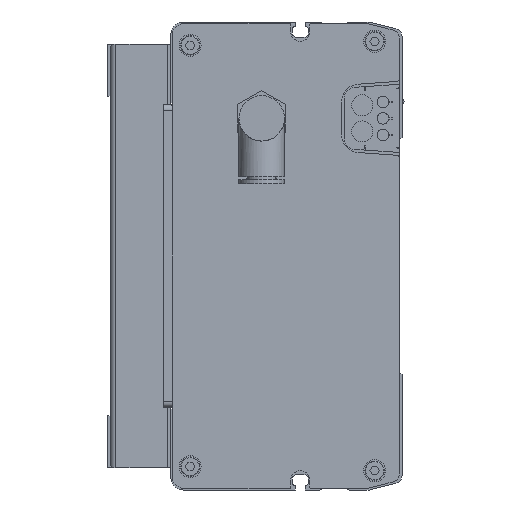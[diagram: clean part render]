
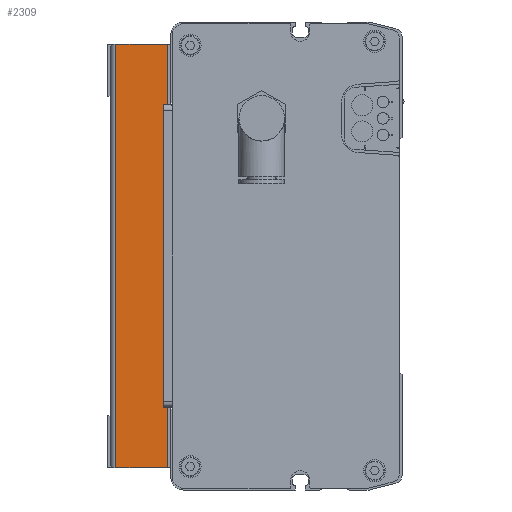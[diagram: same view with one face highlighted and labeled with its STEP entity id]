
A CAD part, left-side view. The second image highlights one B-rep face of the part: STEP entity #2309.
In plain terms, the highlighted planar face has unit normal (-1, 0, 0) as drawn and (1, 0, 0) by its records, which use the part's own axes.
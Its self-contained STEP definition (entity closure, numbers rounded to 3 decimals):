
#252 = CYLINDRICAL_SURFACE('',#253,2.);
#253 = AXIS2_PLACEMENT_3D('',#254,#255,#256);
#254 = CARTESIAN_POINT('',(113.,20.,77.));
#255 = DIRECTION('',(0.,0.,-1.));
#256 = DIRECTION('',(-1.,0.,0.));
#572 = PLANE('',#573);
#573 = AXIS2_PLACEMENT_3D('',#574,#575,#576);
#574 = CARTESIAN_POINT('',(115.,20.2,77.));
#575 = DIRECTION('',(0.,0.,-1.));
#576 = DIRECTION('',(-1.,0.,-0.));
#606 = PLANE('',#607);
#607 = AXIS2_PLACEMENT_3D('',#608,#609,#610);
#608 = CARTESIAN_POINT('',(115.,1.2,-77.));
#609 = DIRECTION('',(0.,0.,1.));
#610 = DIRECTION('',(1.,0.,-0.));
#1203 = VERTEX_POINT('',#1204);
#1204 = CARTESIAN_POINT('',(115.,20.,-77.));
#1353 = VERTEX_POINT('',#1354);
#1354 = CARTESIAN_POINT('',(115.,20.,77.));
#1376 = EDGE_CURVE('',#1353,#1203,#1377,.T.);
#1377 = SURFACE_CURVE('',#1378,(#1382,#1389),.PCURVE_S1.);
#1378 = LINE('',#1379,#1380);
#1379 = CARTESIAN_POINT('',(115.,20.,77.));
#1380 = VECTOR('',#1381,1.);
#1381 = DIRECTION('',(0.,0.,-1.));
#1382 = PCURVE('',#252,#1383);
#1383 = DEFINITIONAL_REPRESENTATION('',(#1384),#1388);
#1384 = LINE('',#1385,#1386);
#1385 = CARTESIAN_POINT('',(3.142,0.));
#1386 = VECTOR('',#1387,1.);
#1387 = DIRECTION('',(0.,1.));
#1388 = ( GEOMETRIC_REPRESENTATION_CONTEXT(2) 
PARAMETRIC_REPRESENTATION_CONTEXT() REPRESENTATION_CONTEXT('2D SPACE',''
  ) );
#1389 = PCURVE('',#1390,#1395);
#1390 = PLANE('',#1391);
#1391 = AXIS2_PLACEMENT_3D('',#1392,#1393,#1394);
#1392 = CARTESIAN_POINT('',(115.,20.2,75.));
#1393 = DIRECTION('',(1.,0.,0.));
#1394 = DIRECTION('',(0.,0.,-1.));
#1395 = DEFINITIONAL_REPRESENTATION('',(#1396),#1400);
#1396 = LINE('',#1397,#1398);
#1397 = CARTESIAN_POINT('',(-2.,-0.2));
#1398 = VECTOR('',#1399,1.);
#1399 = DIRECTION('',(1.,0.));
#1400 = ( GEOMETRIC_REPRESENTATION_CONTEXT(2) 
PARAMETRIC_REPRESENTATION_CONTEXT() REPRESENTATION_CONTEXT('2D SPACE',''
  ) );
#1861 = VERTEX_POINT('',#1862);
#1862 = CARTESIAN_POINT('',(115.,1.2,77.));
#1876 = PLANE('',#1877);
#1877 = AXIS2_PLACEMENT_3D('',#1878,#1879,#1880);
#1878 = CARTESIAN_POINT('',(115.,1.2,77.));
#1879 = DIRECTION('',(0.,1.,0.));
#1880 = DIRECTION('',(0.,0.,1.));
#1888 = EDGE_CURVE('',#1353,#1861,#1889,.T.);
#1889 = SURFACE_CURVE('',#1890,(#1894,#1901),.PCURVE_S1.);
#1890 = LINE('',#1891,#1892);
#1891 = CARTESIAN_POINT('',(115.,20.2,77.));
#1892 = VECTOR('',#1893,1.);
#1893 = DIRECTION('',(-0.,-1.,-0.));
#1894 = PCURVE('',#572,#1895);
#1895 = DEFINITIONAL_REPRESENTATION('',(#1896),#1900);
#1896 = LINE('',#1897,#1898);
#1897 = CARTESIAN_POINT('',(0.,0.));
#1898 = VECTOR('',#1899,1.);
#1899 = DIRECTION('',(0.,-1.));
#1900 = ( GEOMETRIC_REPRESENTATION_CONTEXT(2) 
PARAMETRIC_REPRESENTATION_CONTEXT() REPRESENTATION_CONTEXT('2D SPACE',''
  ) );
#1901 = PCURVE('',#1390,#1902);
#1902 = DEFINITIONAL_REPRESENTATION('',(#1903),#1907);
#1903 = LINE('',#1904,#1905);
#1904 = CARTESIAN_POINT('',(-2.,0.));
#1905 = VECTOR('',#1906,1.);
#1906 = DIRECTION('',(0.,-1.));
#1907 = ( GEOMETRIC_REPRESENTATION_CONTEXT(2) 
PARAMETRIC_REPRESENTATION_CONTEXT() REPRESENTATION_CONTEXT('2D SPACE',''
  ) );
#2131 = EDGE_CURVE('',#2132,#1203,#2134,.T.);
#2132 = VERTEX_POINT('',#2133);
#2133 = CARTESIAN_POINT('',(115.,1.2,-77.));
#2134 = SURFACE_CURVE('',#2135,(#2139,#2146),.PCURVE_S1.);
#2135 = LINE('',#2136,#2137);
#2136 = CARTESIAN_POINT('',(115.,1.2,-77.));
#2137 = VECTOR('',#2138,1.);
#2138 = DIRECTION('',(-0.,1.,0.));
#2139 = PCURVE('',#606,#2140);
#2140 = DEFINITIONAL_REPRESENTATION('',(#2141),#2145);
#2141 = LINE('',#2142,#2143);
#2142 = CARTESIAN_POINT('',(0.,0.));
#2143 = VECTOR('',#2144,1.);
#2144 = DIRECTION('',(0.,1.));
#2145 = ( GEOMETRIC_REPRESENTATION_CONTEXT(2) 
PARAMETRIC_REPRESENTATION_CONTEXT() REPRESENTATION_CONTEXT('2D SPACE',''
  ) );
#2146 = PCURVE('',#1390,#2147);
#2147 = DEFINITIONAL_REPRESENTATION('',(#2148),#2152);
#2148 = LINE('',#2149,#2150);
#2149 = CARTESIAN_POINT('',(152.,-19.));
#2150 = VECTOR('',#2151,1.);
#2151 = DIRECTION('',(0.,1.));
#2152 = ( GEOMETRIC_REPRESENTATION_CONTEXT(2) 
PARAMETRIC_REPRESENTATION_CONTEXT() REPRESENTATION_CONTEXT('2D SPACE',''
  ) );
#2309 = ADVANCED_FACE('',(#2310),#1390,.T.);
#2310 = FACE_BOUND('',#2311,.T.);
#2311 = EDGE_LOOP('',(#2312,#2313,#2314,#2315));
#2312 = ORIENTED_EDGE('',*,*,#2131,.T.);
#2313 = ORIENTED_EDGE('',*,*,#1376,.F.);
#2314 = ORIENTED_EDGE('',*,*,#1888,.T.);
#2315 = ORIENTED_EDGE('',*,*,#2316,.T.);
#2316 = EDGE_CURVE('',#1861,#2132,#2317,.T.);
#2317 = SURFACE_CURVE('',#2318,(#2322,#2329),.PCURVE_S1.);
#2318 = LINE('',#2319,#2320);
#2319 = CARTESIAN_POINT('',(115.,1.2,75.));
#2320 = VECTOR('',#2321,1.);
#2321 = DIRECTION('',(0.,0.,-1.));
#2322 = PCURVE('',#1390,#2323);
#2323 = DEFINITIONAL_REPRESENTATION('',(#2324),#2328);
#2324 = LINE('',#2325,#2326);
#2325 = CARTESIAN_POINT('',(0.,-19.));
#2326 = VECTOR('',#2327,1.);
#2327 = DIRECTION('',(1.,0.));
#2328 = ( GEOMETRIC_REPRESENTATION_CONTEXT(2) 
PARAMETRIC_REPRESENTATION_CONTEXT() REPRESENTATION_CONTEXT('2D SPACE',''
  ) );
#2329 = PCURVE('',#1876,#2330);
#2330 = DEFINITIONAL_REPRESENTATION('',(#2331),#2335);
#2331 = LINE('',#2332,#2333);
#2332 = CARTESIAN_POINT('',(-2.,0.));
#2333 = VECTOR('',#2334,1.);
#2334 = DIRECTION('',(-1.,0.));
#2335 = ( GEOMETRIC_REPRESENTATION_CONTEXT(2) 
PARAMETRIC_REPRESENTATION_CONTEXT() REPRESENTATION_CONTEXT('2D SPACE',''
  ) );
